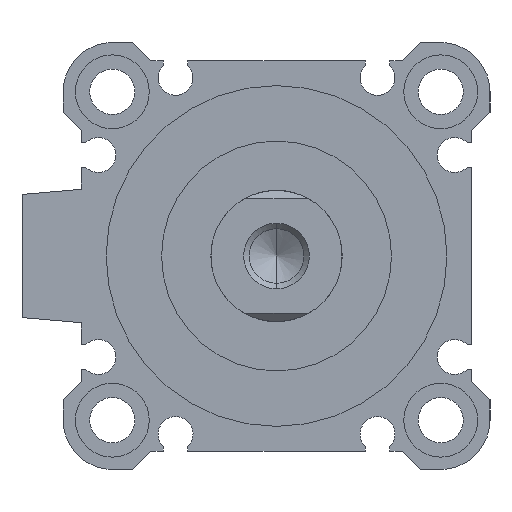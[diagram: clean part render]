
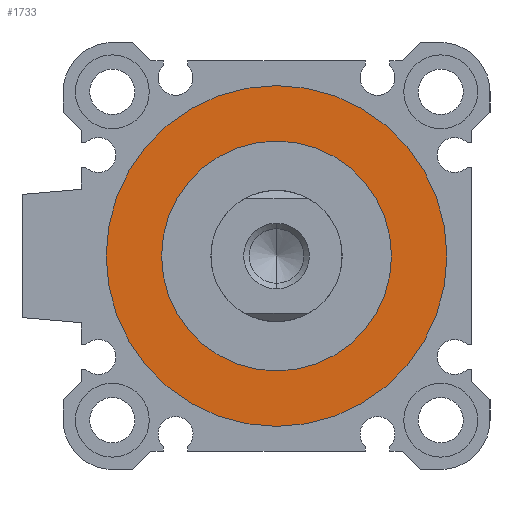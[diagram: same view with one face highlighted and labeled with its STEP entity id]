
A CAD part, left-side view. The second image highlights one B-rep face of the part: STEP entity #1733.
In plain terms, the highlighted planar face has unit normal (-1, 0, 0).
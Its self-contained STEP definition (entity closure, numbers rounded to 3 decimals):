
#60 = CARTESIAN_POINT ( 'NONE',  ( 3.3, 0., -14. ) ) ;
#155 = VERTEX_POINT ( 'NONE', #60 ) ;
#169 = PLANE ( 'NONE',  #4495 ) ;
#301 = DIRECTION ( 'NONE',  ( 0., 0., -1. ) ) ;
#321 = ORIENTED_EDGE ( 'NONE', *, *, #2340, .F. ) ;
#451 = DIRECTION ( 'NONE',  ( 1., 0., 0. ) ) ;
#1041 = CARTESIAN_POINT ( 'NONE',  ( 3.3, 0., 0. ) ) ;
#1062 = DIRECTION ( 'NONE',  ( 0., 0., -1. ) ) ;
#1135 = CIRCLE ( 'NONE', #2121, 14. ) ;
#1210 = CARTESIAN_POINT ( 'NONE',  ( 3.3, 0., 20.75 ) ) ;
#1239 = ORIENTED_EDGE ( 'NONE', *, *, #2255, .T. ) ;
#1248 = EDGE_LOOP ( 'NONE', ( #321, #1336 ) ) ;
#1336 = ORIENTED_EDGE ( 'NONE', *, *, #2214, .F. ) ;
#1681 = EDGE_CURVE ( 'NONE', #2039, #155, #4489, .T. ) ;
#1733 = ADVANCED_FACE ( 'NONE', ( #2484, #4462 ), #169, .F. ) ;
#1788 = CARTESIAN_POINT ( 'NONE',  ( 3.3, 0., 0. ) ) ;
#2039 = VERTEX_POINT ( 'NONE', #2732 ) ;
#2121 = AXIS2_PLACEMENT_3D ( 'NONE', #1788, #2192, #4891 ) ;
#2124 = CIRCLE ( 'NONE', #2853, 20.75 ) ;
#2192 = DIRECTION ( 'NONE',  ( 1., 0., 0. ) ) ;
#2214 = EDGE_CURVE ( 'NONE', #4718, #3492, #2124, .T. ) ;
#2255 = EDGE_CURVE ( 'NONE', #155, #2039, #1135, .T. ) ;
#2340 = EDGE_CURVE ( 'NONE', #3492, #4718, #4076, .T. ) ;
#2427 = CARTESIAN_POINT ( 'NONE',  ( 3.3, 0., 0. ) ) ;
#2484 = FACE_OUTER_BOUND ( 'NONE', #1248, .T. ) ;
#2732 = CARTESIAN_POINT ( 'NONE',  ( 3.3, 0., 14. ) ) ;
#2853 = AXIS2_PLACEMENT_3D ( 'NONE', #2427, #3603, #3983 ) ;
#3070 = CARTESIAN_POINT ( 'NONE',  ( 3.3, 0., -20.75 ) ) ;
#3391 = DIRECTION ( 'NONE',  ( 1., 0., 0. ) ) ;
#3492 = VERTEX_POINT ( 'NONE', #1210 ) ;
#3534 = DIRECTION ( 'NONE',  ( 0., 1., 0. ) ) ;
#3603 = DIRECTION ( 'NONE',  ( 1., 0., 0. ) ) ;
#3691 = EDGE_LOOP ( 'NONE', ( #4081, #1239 ) ) ;
#3917 = CARTESIAN_POINT ( 'NONE',  ( 3.3, 0., 0. ) ) ;
#3983 = DIRECTION ( 'NONE',  ( 0., 0., -1. ) ) ;
#4076 = CIRCLE ( 'NONE', #4554, 20.75 ) ;
#4081 = ORIENTED_EDGE ( 'NONE', *, *, #1681, .T. ) ;
#4089 = AXIS2_PLACEMENT_3D ( 'NONE', #4617, #4953, #301 ) ;
#4462 = FACE_BOUND ( 'NONE', #3691, .T. ) ;
#4489 = CIRCLE ( 'NONE', #4089, 14. ) ;
#4495 = AXIS2_PLACEMENT_3D ( 'NONE', #3917, #451, #3534 ) ;
#4554 = AXIS2_PLACEMENT_3D ( 'NONE', #1041, #3391, #1062 ) ;
#4617 = CARTESIAN_POINT ( 'NONE',  ( 3.3, 0., 0. ) ) ;
#4718 = VERTEX_POINT ( 'NONE', #3070 ) ;
#4891 = DIRECTION ( 'NONE',  ( 0., 0., -1. ) ) ;
#4953 = DIRECTION ( 'NONE',  ( 1., 0., 0. ) ) ;
